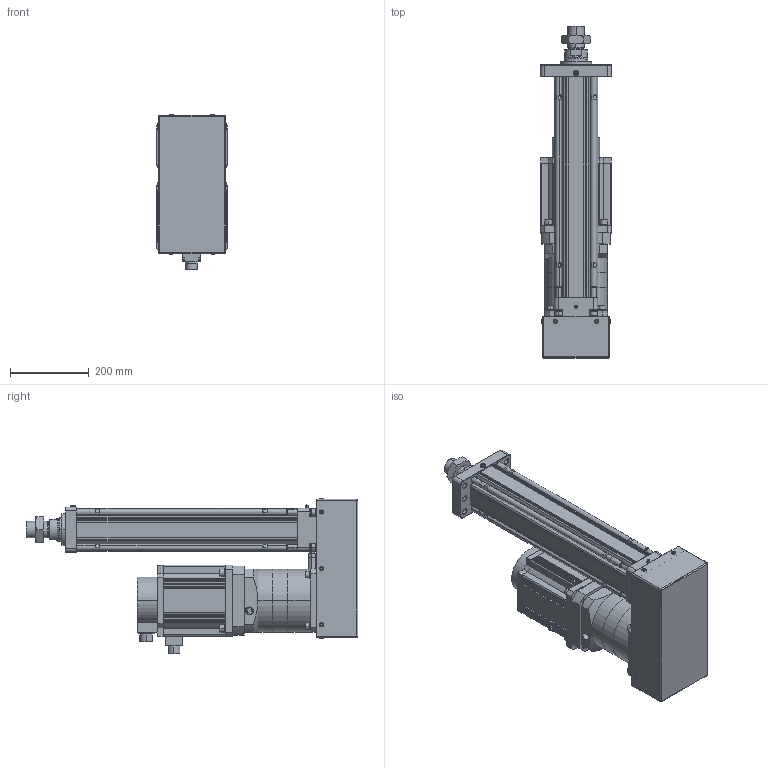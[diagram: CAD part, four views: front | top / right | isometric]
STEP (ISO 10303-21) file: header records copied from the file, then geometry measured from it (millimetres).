
FILE_DESCRIPTION((''),'2;1');
FILE_NAME('HEB100-100-D_ASM','2020-09-29T',('ASUS20200'),(''),'CREO PARAMETRIC BY PTC INC, 2014190','CREO PARAMETRIC BY PTC INC, 2014190','');
FILE_SCHEMA(('CONFIG_CONTROL_DESIGN'));
Length unit declared in the file: millimetre
Products named in the file (39): HEB100-D-P-001-X1; HEB100-D-P-002-X1; HEB100-D-P-008-X1; HEB100-D-P-003-X1; TD-12; SLM-01; YZ-M6X1; M12X60; M12X45; HEB100-D-P-004-X1; HEB100-D-P-005-X1; LM-M42X2; HEB100-100-D-P_ASM; HEB100-P-010-X1-160N; ______13_1; ______14_1; __-__6_1; __1_1__1; PLF160-___ASM; PLF160-__ASM; 130__2_1; _10_1; 180__-5982_1; 180__-10214_1; 21_5N___1; 180___-1762_1; 130___1; 180___-6000_1; SMA-452K20-GJ_1_2_ASM; ASM0001_ASM; TD-10; M10X45; M10X1_5-10; HEB125-P-009-X1-160N; BYT-M6X12; JM-M10-40; M12X1_75-18; M12X1_75-9; HEB100-100-D_ASM
Assembly tree (80 placements, depth 4):
  HEB100-100-D_ASM
    HEB100-100-D-P_ASM
      HEB100-D-P-001-X1
      HEB100-D-P-002-X1
      HEB100-D-P-008-X1  x4
      HEB100-D-P-003-X1
      TD-12  x8
      SLM-01
      YZ-M6X1
      M12X60  x4
      M12X45  x4
      HEB100-D-P-004-X1
      HEB100-D-P-005-X1
      LM-M42X2
    HEB100-P-010-X1-160N
    PLF160-__ASM
      PLF160-___ASM
        ______13_1
        ______14_1
        __-__6_1
        __1_1__1
    ASM0001_ASM
      SMA-452K20-GJ_1_2_ASM
        130__2_1
        _10_1
        180__-5982_1
        180__-10214_1
        21_5N___1
        180___-1762_1
        130___1
        180___-6000_1
    TD-10  x4
    M10X45  x4
    TD-12  x4
    M12X45  x4
    M10X1_5-10  x4
    HEB125-P-009-X1-160N
    BYT-M6X12  x10
    JM-M10-40
    M12X1_75-18
    M12X1_75-9
Bounding box: 180 x 842 x 394.92 mm (x, y, z)
Volume: 12057735.7 mm3; surface area: 2308439 mm2
Topology: 75 solids, 107 shells, 3005 faces, 7140 edges, 4470 vertices
Faces by surface type: plane 1278, cylinder 929, cone 592, torus 174, bspline 22, sphere 10
Entity records: 65652 total; most frequent: CARTESIAN_POINT 12693, DIRECTION 11599, ORIENTED_EDGE 10266, EDGE_CURVE 5188, AXIS2_PLACEMENT_3D 4397, VERTEX_POINT 3282, VECTOR 2805, LINE 2805
